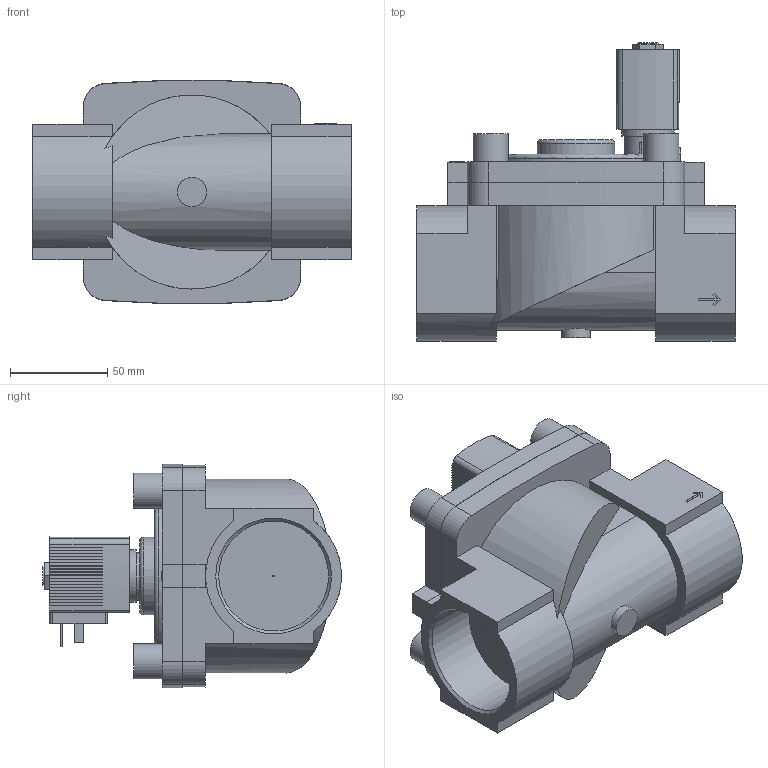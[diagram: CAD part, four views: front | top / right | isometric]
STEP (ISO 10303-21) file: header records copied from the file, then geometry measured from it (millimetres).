
FILE_DESCRIPTION(/* description */ ('STEP AP214'),/* implementation_level */ '2;1');
FILE_NAME(/* name */ '6281-297153-2_2-Way_Solenoid_Valve__Servo-assisted__General_Purpose',/* time_stamp */ '2024-09-06T10:33:02+02:00',/* author */ ('License CC BY-ND 4.0'),/* organization */ ('CADENAS'),/* preprocessor_version */ 'ST-DEVELOPER v19.3',/* originating_system */ 'PARTsolutions',/* authorisation */ ' ');
FILE_SCHEMA (('AUTOMOTIVE_DESIGN {1 0 10303 214 3 1 1}'));
Length unit declared in the file: millimetre
Products named in the file (4): 6281-297153-2/2-Way Solenoid Valve, Servo-assisted, General Purpose; 5281ev500MS2/2-Wege-Magnetventil mit Servomembran-Deckel 115 ; 5281ge-50 G2 MS; AC10ex-5OO-Plan-Coil
Assembly tree (3 placements, depth 2):
  6281-297153-2/2-Way Solenoid Valve, Servo-assisted, General Purpose
    5281ev500MS2/2-Wege-Magnetventil mit Servomembran-Deckel 115 
    5281ge-50 G2 MS
    AC10ex-5OO-Plan-Coil
Bounding box: 164 x 153.87 x 114.92 mm (x, y, z)
Volume: 977661.8 mm3; surface area: 125766.6 mm2
Topology: 3 solids, 3 shells, 440 faces, 1244 edges, 828 vertices
Faces by surface type: plane 372, cylinder 57, cone 9, torus 2
Full cylindrical faces by diameter (mm): 1 x1, 2.013 x1, 9.74 x1, 15 x1, 18 x4, 27 x1, 40 x1, 56.656 x2
Entity records: 16732 total; most frequent: CARTESIAN_POINT 2581, ORIENTED_EDGE 2440, DIRECTION 2304, EDGE_CURVE 1220, LINE 976, VECTOR 976, VERTEX_POINT 820, AXIS2_PLACEMENT_3D 664
